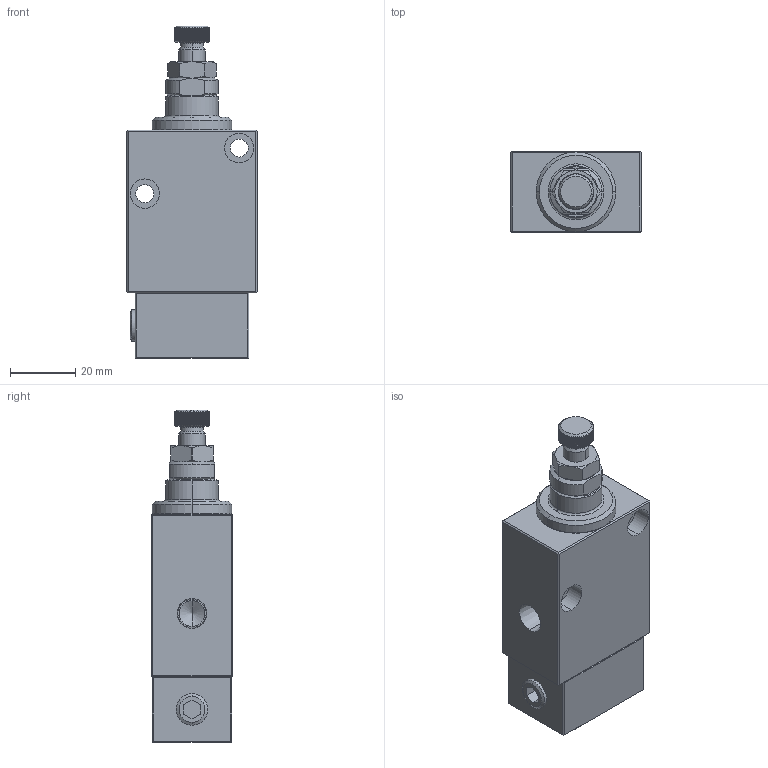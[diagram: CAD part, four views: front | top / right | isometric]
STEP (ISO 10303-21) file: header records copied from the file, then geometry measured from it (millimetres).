
FILE_DESCRIPTION(/* description */ (''),/* implementation_level */ '2;1');
FILE_NAME(/* name */ 'BGW01-10.stp',/* time_stamp */ '2022-11-21T16:35:08+08:00',/* author */ (''),/* organization */ (''),/* preprocessor_version */ 'ST-DEVELOPER v16.7',/* originating_system */ 'SIEMENS PLM Software NX 12.0',/* authorisation */ '');
FILE_SCHEMA (('AP203_CONFIGURATION_CONTROLLED_3D_DESIGN_OF_MECHANICAL_PARTS_AND_ASSEMBLIES_MIM_LF { 1 0 10303 403 2 1 2}'));
Length unit declared in the file: millimetre
Products named in the file (10): BGW-09; BGW-08; BGW-07; BGW-05; BGW-06; BGW-04; BGW-03; BGW-02; BGW-01; BWD0100_step
Assembly tree (10 placements, depth 2):
  BWD0100_step
    BGW-01
    BGW-02
    BGW-03
    BGW-04
    BGW-06  x2
    BGW-05
    BGW-07
    BGW-08
    BGW-09
Bounding box: 40 x 25 x 102 mm (x, y, z)
Volume: 66130.9 mm3; surface area: 20373.3 mm2
Topology: 10 solids, 10 shells, 442 faces, 1090 edges, 681 vertices
Faces by surface type: plane 223, cylinder 134, cone 77, torus 8
Entity records: 13712 total; most frequent: CARTESIAN_POINT 2894, ORIENTED_EDGE 2052, DIRECTION 1961, EDGE_CURVE 1026, AXIS2_PLACEMENT_3D 769, VERTEX_POINT 656, EDGE_LOOP 448, LINE 423
